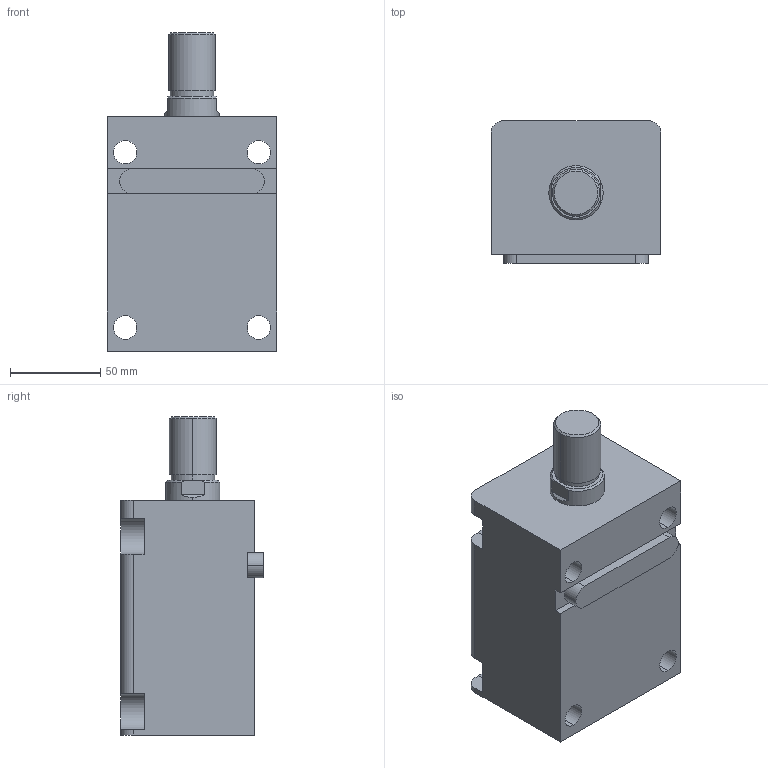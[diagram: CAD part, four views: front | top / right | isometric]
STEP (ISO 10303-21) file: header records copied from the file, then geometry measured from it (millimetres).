
FILE_DESCRIPTION (( 'STEP AP203' ), '1' );
FILE_NAME ('HTB-LA50-70W.STEP', '2019-10-09T07:12:10', ( '微软用户' ), ( '微软中国' ), 'SwSTEP 2.0', 'SolidWorks 2012', '' );
FILE_SCHEMA (( 'CONFIG_CONTROL_DESIGN' ));
Length unit declared in the file: millimetre
Products named in the file (4): HTB-LA50-70W; HTB-LA50-瑩; HTB-LA50-70掛极; HTB-LA50-70W活塞杆
Assembly tree (3 placements, depth 2):
  HTB-LA50-70W
    HTB-LA50-70掛极
    HTB-LA50-70W活塞杆
    HTB-LA50-瑩
Bounding box: 94 x 79 x 176 mm (x, y, z)
Volume: 791098.5 mm3; surface area: 112527 mm2
Topology: 3 solids, 3 shells, 90 faces, 219 edges, 144 vertices
Faces by surface type: plane 41, cylinder 37, cone 8, torus 4
Entity records: 3107 total; most frequent: DIRECTION 497, CARTESIAN_POINT 487, ORIENTED_EDGE 438, EDGE_CURVE 219, AXIS2_PLACEMENT_3D 190, VERTEX_POINT 144, LINE 117, VECTOR 117
